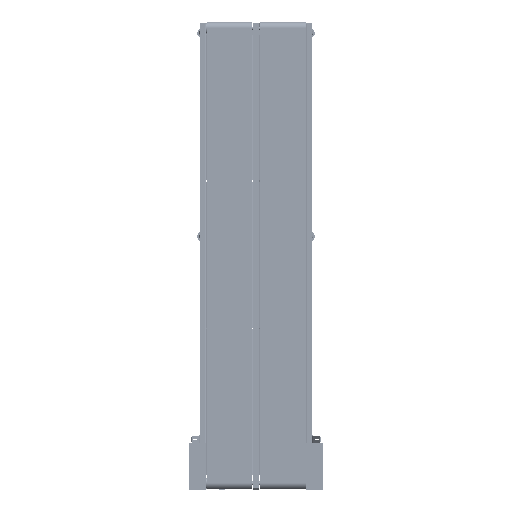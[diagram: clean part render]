
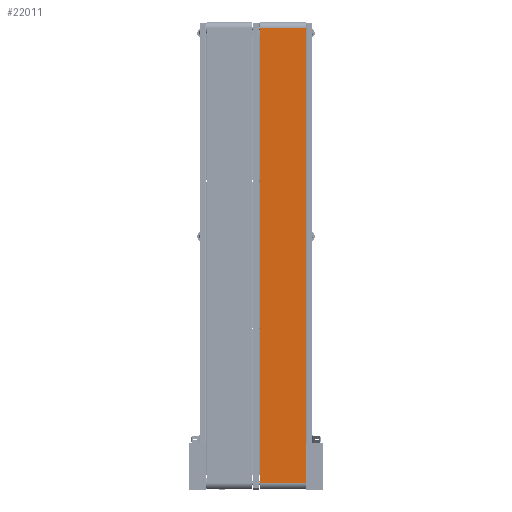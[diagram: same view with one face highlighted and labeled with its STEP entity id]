
A CAD part, front view. The second image highlights one B-rep face of the part: STEP entity #22011.
In plain terms, the highlighted planar face has unit normal (0, -1, 0).
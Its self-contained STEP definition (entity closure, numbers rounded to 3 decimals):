
#14143=PLANE('',#173774);
#22011=ADVANCED_FACE('',(#32060),#14143,.T.);
#32060=FACE_OUTER_BOUND('',#41644,.T.);
#41644=EDGE_LOOP('',(#111218,#111219,#111220,#111221));
#56222=LINE('',#268871,#70650);
#56226=LINE('',#268882,#70654);
#56228=LINE('',#268889,#70656);
#56229=LINE('',#268891,#70657);
#70650=VECTOR('',#212306,1.);
#70654=VECTOR('',#212318,1.);
#70656=VECTOR('',#212328,1.);
#70657=VECTOR('',#212331,1.);
#111218=ORIENTED_EDGE('',*,*,#152677,.F.);
#111219=ORIENTED_EDGE('',*,*,#152687,.T.);
#111220=ORIENTED_EDGE('',*,*,#152683,.F.);
#111221=ORIENTED_EDGE('',*,*,#152686,.F.);
#131019=VERTEX_POINT('',#268866);
#131021=VERTEX_POINT('',#268870);
#131024=VERTEX_POINT('',#268881);
#131025=VERTEX_POINT('',#268883);
#152677=EDGE_CURVE('',#131021,#131019,#56222,.T.);
#152683=EDGE_CURVE('',#131024,#131025,#56226,.T.);
#152686=EDGE_CURVE('',#131019,#131024,#56228,.T.);
#152687=EDGE_CURVE('',#131021,#131025,#56229,.T.);
#173774=AXIS2_PLACEMENT_3D('',#268892,#212332,#212333);
#212306=DIRECTION('',(0.,0.,-1.));
#212318=DIRECTION('',(0.,0.,1.));
#212328=DIRECTION('',(-1.,0.,0.));
#212331=DIRECTION('',(-1.,0.,0.));
#212332=DIRECTION('',(0.,-1.,0.));
#212333=DIRECTION('',(1.,0.,0.));
#268866=CARTESIAN_POINT('',(661.5,-40.,-108.));
#268870=CARTESIAN_POINT('',(661.5,-40.,2813.));
#268871=CARTESIAN_POINT('',(661.5,-40.,1352.5));
#268881=CARTESIAN_POINT('',(366.5,-40.,-108.));
#268882=CARTESIAN_POINT('',(366.5,-40.,1352.5));
#268883=CARTESIAN_POINT('',(366.5,-40.,2813.));
#268889=CARTESIAN_POINT('',(661.5,-40.,-108.));
#268891=CARTESIAN_POINT('',(661.5,-40.,2813.));
#268892=CARTESIAN_POINT('',(661.5,-40.,2813.));
